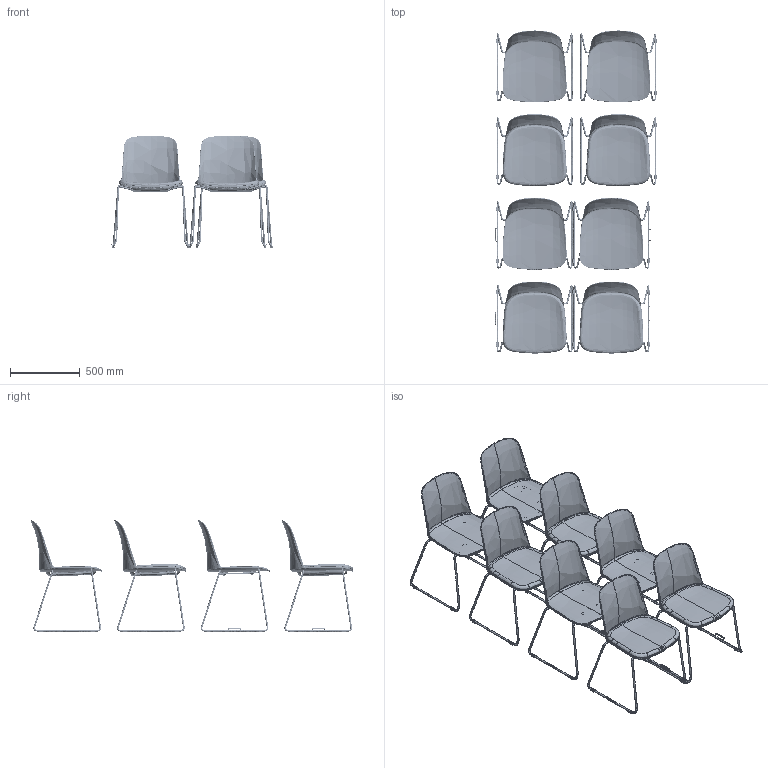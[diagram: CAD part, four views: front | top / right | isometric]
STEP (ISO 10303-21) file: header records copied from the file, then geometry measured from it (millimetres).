
FILE_DESCRIPTION(/* description */ (''),/* implementation_level */ '2;1');
FILE_NAME(/* name */ 'Unix 4GF',/* time_stamp */ '2025-10-27T09:59:37+01:00',/* author */ (''),/* organization */ (''),/* preprocessor_version */ 'ST-DEVELOPER v16.5',/* originating_system */ '',/* authorisation */ '');
FILE_SCHEMA (('AUTOMOTIVE_DESIGN'));
Products named in the file (1): Document
Bounding box: 1156.46 x 2315.41 x 804.34 mm (x, y, z)
Volume: 20624395.3 mm3; surface area: 9566948.8 mm2
Topology: 76 solids, 98 shells, 4527 faces, 10494 edges, 6145 vertices
Faces by surface type: bspline 3899, plane 628
Entity records: 518575 total; most frequent: CARTESIAN_POINT 460007, ORIENTED_EDGE 20661, EDGE_CURVE 10388, VERTEX_POINT 6124, EDGE_LOOP 4713, B_SPLINE_CURVE_WITH_KNOTS 4636, ADVANCED_FACE 4525, FACE_OUTER_BOUND 4525
